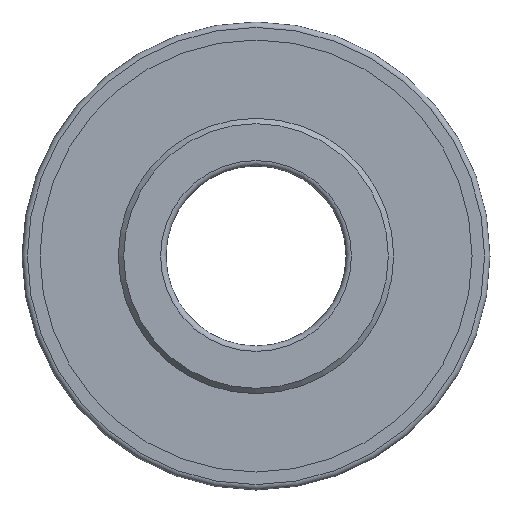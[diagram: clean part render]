
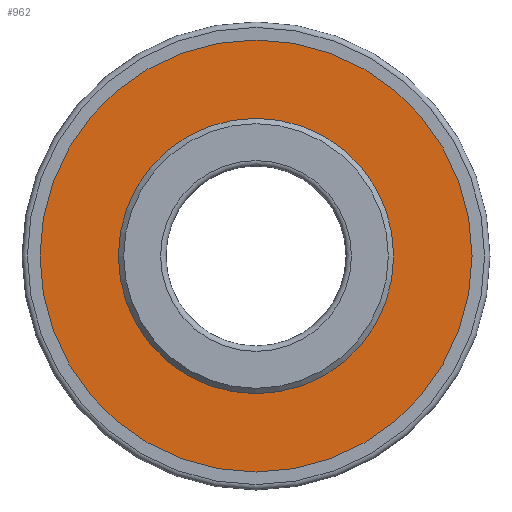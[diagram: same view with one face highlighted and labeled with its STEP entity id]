
A CAD part, left-side view. The second image highlights one B-rep face of the part: STEP entity #962.
In plain terms, the highlighted planar face has unit normal (-1, 0, 0).
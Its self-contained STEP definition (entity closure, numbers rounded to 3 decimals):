
#170=PLANE($,#1127);
#201=FACE_BOUND($,#344,.T.);
#202=FACE_BOUND($,#345,.T.);
#344=EDGE_LOOP($,(#896));
#345=EDGE_LOOP($,(#897));
#437=CIRCLE($,#1125,7.65);
#439=CIRCLE($,#1128,12.);
#529=VERTEX_POINT($,#2433);
#531=VERTEX_POINT($,#2438);
#652=EDGE_CURVE($,#529,#529,#437,.T.);
#654=EDGE_CURVE($,#531,#531,#439,.T.);
#896=ORIENTED_EDGE($,*,*,#652,.T.);
#897=ORIENTED_EDGE($,*,*,#654,.F.);
#962=ADVANCED_FACE($,(#201,#202),#170,.T.);
#1125=AXIS2_PLACEMENT_3D($,#2434,#1447,#1448);
#1127=AXIS2_PLACEMENT_3D($,#2437,#1451,#1452);
#1128=AXIS2_PLACEMENT_3D($,#2439,#1453,#1454);
#1447=DIRECTION('center_axis',(1.,0.,0.));
#1448=DIRECTION('ref_axis',(0.,0.,-1.));
#1451=DIRECTION('center_axis',(-1.,0.,0.));
#1452=DIRECTION('ref_axis',(0.,0.,1.));
#1453=DIRECTION('center_axis',(1.,0.,0.));
#1454=DIRECTION('ref_axis',(0.,0.,-1.));
#2433=CARTESIAN_POINT('',(0.,7.65,0.));
#2434=CARTESIAN_POINT('Origin',(0.,0.,0.));
#2437=CARTESIAN_POINT('Origin',(0.,12.,0.));
#2438=CARTESIAN_POINT('',(0.,12.,0.));
#2439=CARTESIAN_POINT('Origin',(0.,0.,0.));
